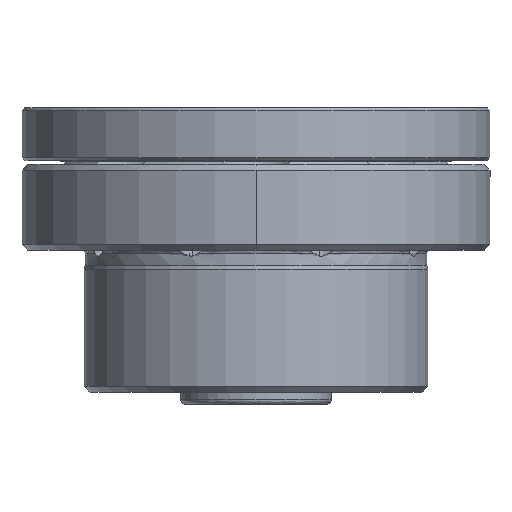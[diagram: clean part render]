
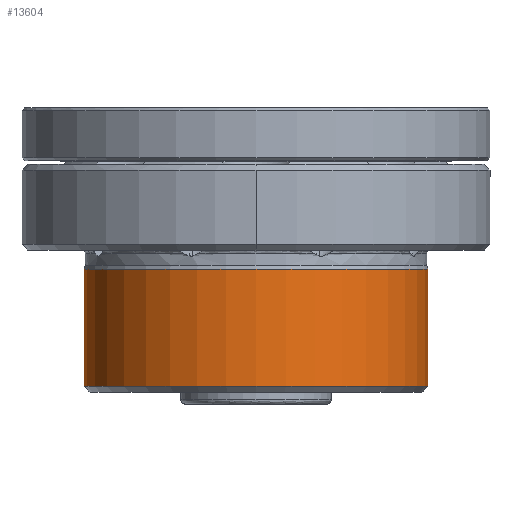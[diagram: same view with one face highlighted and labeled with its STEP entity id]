
A CAD part, front view. The second image highlights one B-rep face of the part: STEP entity #13604.
In plain terms, the highlighted cylindrical face has radius 29 mm (diameter 58 mm), a partial arc.
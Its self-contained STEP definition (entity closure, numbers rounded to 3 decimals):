
#6929 = CARTESIAN_POINT ( 'NONE',  ( 29., 0., -38. ) ) ;
#6935 = CARTESIAN_POINT ( 'NONE',  ( -29., 0., -38. ) ) ;
#7537 = CARTESIAN_POINT ( 'NONE',  ( 29., 0., -18.2 ) ) ;
#7543 = CARTESIAN_POINT ( 'NONE',  ( -29., 0., -18.2 ) ) ;
#7544 = DIRECTION ( 'NONE',  ( 0., 0., 1. ) ) ;
#7545 = VECTOR ( 'NONE', #7544, 1000. ) ;
#7546 = CARTESIAN_POINT ( 'NONE',  ( -29., 0., -38. ) ) ;
#7547 = LINE ( 'NONE', #7546, #7545 ) ;
#7632 = DIRECTION ( 'NONE',  ( 0., 0., 1. ) ) ;
#7633 = VECTOR ( 'NONE', #7632, 1000. ) ;
#7824 = CARTESIAN_POINT ( 'NONE',  ( 29., 0., -38. ) ) ;
#7825 = LINE ( 'NONE', #7824, #7633 ) ;
#8792 = DIRECTION ( 'NONE',  ( 1., 0., 0. ) ) ;
#8793 = DIRECTION ( 'NONE',  ( 0., 0., 1. ) ) ;
#8794 = CARTESIAN_POINT ( 'NONE',  ( 0., 0., -18.2 ) ) ;
#8795 = AXIS2_PLACEMENT_3D ( 'NONE', #8794, #8793, #8792 ) ;
#8796 = CIRCLE ( 'NONE', #8795, 29. ) ;
#9337 = CARTESIAN_POINT ( 'NONE',  ( 0., 0., -38. ) ) ;
#9339 = CYLINDRICAL_SURFACE ( 'NONE', #9509, 29. ) ;
#9340 = FACE_OUTER_BOUND ( 'NONE', #13605, .T. ) ;
#9497 = DIRECTION ( 'NONE',  ( 1., 0., 0. ) ) ;
#9498 = DIRECTION ( 'NONE',  ( 0., 0., 1. ) ) ;
#9499 = CARTESIAN_POINT ( 'NONE',  ( 0., 0., -38. ) ) ;
#9500 = AXIS2_PLACEMENT_3D ( 'NONE', #9499, #9498, #9497 ) ;
#9501 = CIRCLE ( 'NONE', #9500, 29. ) ;
#9507 = DIRECTION ( 'NONE',  ( 1., 0., 0. ) ) ;
#9508 = DIRECTION ( 'NONE',  ( 0., 0., 1. ) ) ;
#9509 = AXIS2_PLACEMENT_3D ( 'NONE', #9337, #9508, #9507 ) ;
#12438 = VERTEX_POINT ( 'NONE', #6935 ) ;
#12441 = VERTEX_POINT ( 'NONE', #6929 ) ;
#12702 = EDGE_CURVE ( 'NONE', #12438, #12703, #7547, .T. ) ;
#12703 = VERTEX_POINT ( 'NONE', #7543 ) ;
#12706 = VERTEX_POINT ( 'NONE', #7537 ) ;
#12742 = EDGE_CURVE ( 'NONE', #12441, #12706, #7825, .T. ) ;
#13303 = EDGE_CURVE ( 'NONE', #12703, #12706, #8796, .T. ) ;
#13604 = ADVANCED_FACE ( 'NONE', ( #9340 ), #9339, .T. ) ;
#13605 = EDGE_LOOP ( 'NONE', ( #13607, #13610, #13614, #13616 ) ) ;
#13607 = ORIENTED_EDGE ( 'NONE', *, *, #12702, .F. ) ;
#13610 = ORIENTED_EDGE ( 'NONE', *, *, #13611, .T. ) ;
#13611 = EDGE_CURVE ( 'NONE', #12438, #12441, #9501, .T. ) ;
#13614 = ORIENTED_EDGE ( 'NONE', *, *, #12742, .T. ) ;
#13616 = ORIENTED_EDGE ( 'NONE', *, *, #13303, .F. ) ;
